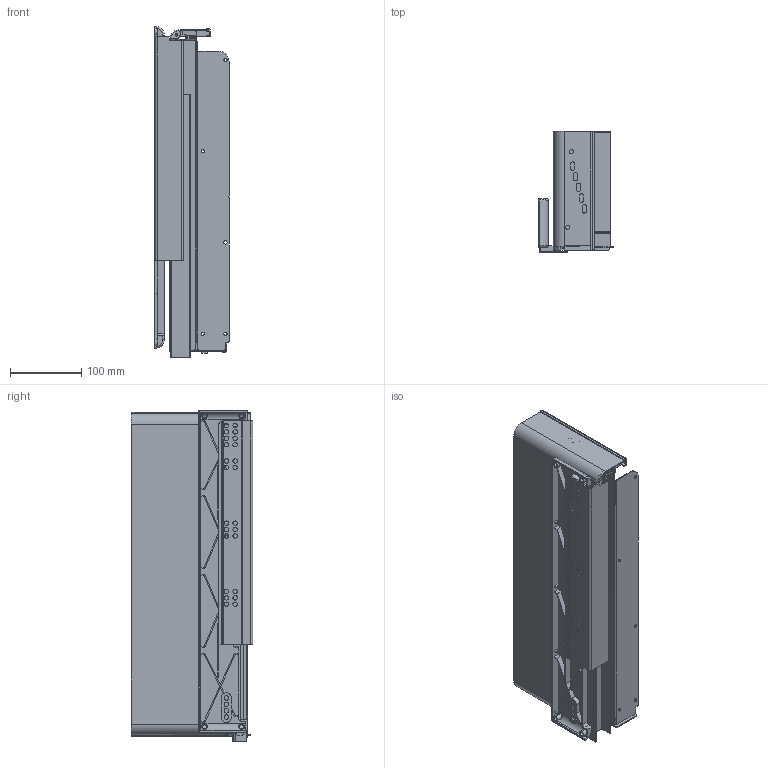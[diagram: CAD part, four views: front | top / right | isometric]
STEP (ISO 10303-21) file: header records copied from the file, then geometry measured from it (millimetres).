
FILE_DESCRIPTION((''),'2;1');
FILE_NAME('238389-LI_SW0001','2023-02-03T11:43:12',('1ke04'),('Kesseboehmer'),'CREO PARAMETRIC BY PTC INC, 2020414','CREO PARAMETRIC BY PTC INC, 2020414','');
FILE_SCHEMA(('AUTOMOTIVE_DESIGN { 1 0 10303 214 1 1 1 1 }'));
Length unit declared in the file: millimetre
Products named in the file (1): 238389-LI_SW0001
Bounding box: 103.9 x 170.3 x 465.09 mm (x, y, z)
Volume: 509730.7 mm3; surface area: 483398 mm2
Topology: 2 solids, 2 shells, 900 faces, 2321 edges, 1442 vertices
Faces by surface type: plane 512, cylinder 318, cone 52, torus 10, bspline 8
Entity records: 33126 total; most frequent: CARTESIAN_POINT 6974, DIRECTION 4759, ORIENTED_EDGE 4642, EDGE_CURVE 2321, AXIS2_PLACEMENT_3D 1607, VECTOR 1542, LINE 1542, VERTEX_POINT 1442
